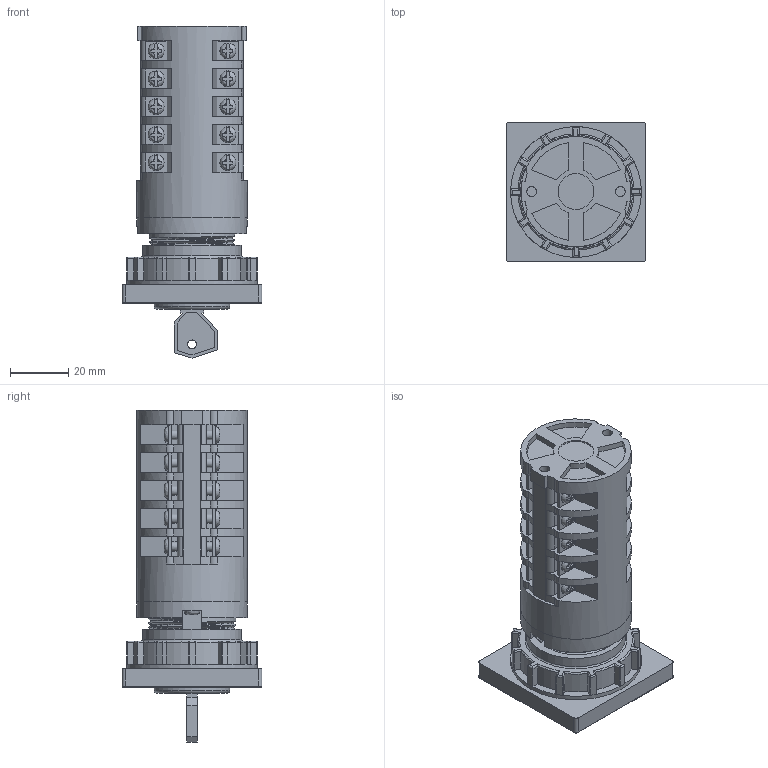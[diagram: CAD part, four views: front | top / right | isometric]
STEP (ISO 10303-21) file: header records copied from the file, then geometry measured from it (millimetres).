
FILE_DESCRIPTION(/* description */ (''),/* implementation_level */ '2;1');
FILE_NAME(/* name */ '4G10-U_wykonanie_S30_5_korpusow.stp',/* time_stamp */ '2021-07-21T08:54:38+02:00',/* author */ (''),/* organization */ (''),/* preprocessor_version */ 'ST-DEVELOPER v18.1',/* originating_system */ 'SIEMENS PLM Software NX 1965',/* authorisation */ '');
FILE_SCHEMA (('AUTOMOTIVE_DESIGN { 1 0 10303 214 3 1 1 1 }'));
Length unit declared in the file: millimetre
Products named in the file (1): 4G10-U_wykonanie_S30_5_korpusow_stp
Bounding box: 48 x 48 x 114.22 mm (x, y, z)
Volume: 104139.5 mm3; surface area: 27632.1 mm2
Topology: 1 solids, 3 shells, 985 faces, 2652 edges, 1706 vertices
Faces by surface type: plane 705, cylinder 205, bspline 59, torus 16
Full cylindrical faces by diameter (mm): 3 x1, 3.2 x22, 3.3 x2, 3.4 x2, 12.3 x1, 15 x1, 26 x1, 34 x1, 38 x2, 45 x1
Entity records: 36464 total; most frequent: CARTESIAN_POINT 12466, ORIENTED_EDGE 5088, DIRECTION 4770, EDGE_CURVE 2544, VERTEX_POINT 1680, AXIS2_PLACEMENT_3D 1620, LINE 1530, VECTOR 1530
